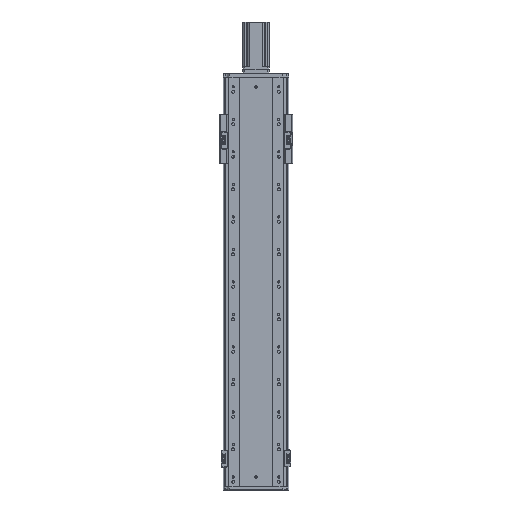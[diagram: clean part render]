
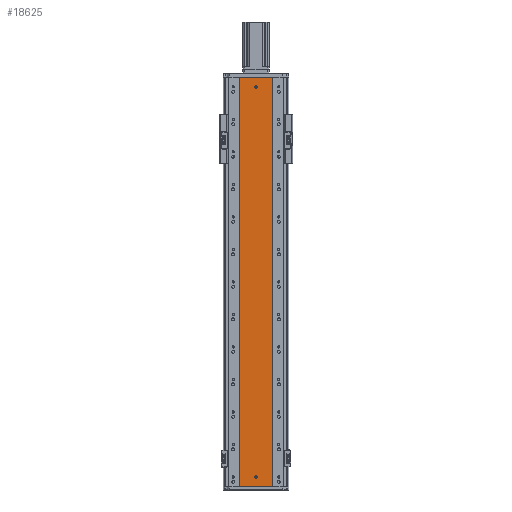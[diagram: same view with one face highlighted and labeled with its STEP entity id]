
A CAD part, front view. The second image highlights one B-rep face of the part: STEP entity #18625.
In plain terms, the highlighted planar face has unit normal (0, -1, 0).
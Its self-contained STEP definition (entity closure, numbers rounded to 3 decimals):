
#8098 = CIRCLE ( 'NONE', #39037, 4. ) ;
#8130 = CIRCLE ( 'NONE', #39039, 4. ) ;
#8908 = CARTESIAN_POINT ( 'NONE',  ( 136.47, 79.476, 26. ) ) ;
#8911 = CARTESIAN_POINT ( 'NONE',  ( 136.47, 79.476, 1226. ) ) ;
#8986 = CARTESIAN_POINT ( 'NONE',  ( 136.47, 79.476, 34. ) ) ;
#8987 = CARTESIAN_POINT ( 'NONE',  ( 136.47, 79.476, 1234. ) ) ;
#10971 = CARTESIAN_POINT ( 'NONE',  ( 0., 79.476, 1260. ) ) ;
#10981 = CARTESIAN_POINT ( 'NONE',  ( 136.47, 79.476, 30. ) ) ;
#10982 = DIRECTION ( 'NONE',  ( 0., -1., 0. ) ) ;
#10999 = CARTESIAN_POINT ( 'NONE',  ( 86.97, 79.476, 420. ) ) ;
#11000 = CARTESIAN_POINT ( 'NONE',  ( 0., 79.476, 0. ) ) ;
#11001 = CARTESIAN_POINT ( 'NONE',  ( 86.97, 79.476, 0. ) ) ;
#11004 = DIRECTION ( 'NONE',  ( 0., 0., -1. ) ) ;
#11006 = DIRECTION ( 'NONE',  ( 0., -1., 0. ) ) ;
#11016 = CARTESIAN_POINT ( 'NONE',  ( 136.47, 79.476, 1230. ) ) ;
#11026 = DIRECTION ( 'NONE',  ( 1., 0., 0. ) ) ;
#11030 = CARTESIAN_POINT ( 'NONE',  ( 86.97, 79.476, 1260. ) ) ;
#11035 = DIRECTION ( 'NONE',  ( 0., 0., -1. ) ) ;
#11036 = CARTESIAN_POINT ( 'NONE',  ( 86.97, 79.476, 840. ) ) ;
#11038 = DIRECTION ( 'NONE',  ( 1., 0., 0. ) ) ;
#11042 = CARTESIAN_POINT ( 'NONE',  ( 185.97, 79.476, 1260. ) ) ;
#11043 = CARTESIAN_POINT ( 'NONE',  ( 185.97, 79.476, 0. ) ) ;
#11060 = CARTESIAN_POINT ( 'NONE',  ( 185.97, 79.476, 840. ) ) ;
#11072 = CARTESIAN_POINT ( 'NONE',  ( 185.97, 79.476, 420. ) ) ;
#18625 = ADVANCED_FACE ( 'NONE', ( #29830, #29817, #29810 ), #22527, .F. ) ;
#19372 = EDGE_CURVE ( 'NONE', #20021, #19962, #8130, .T. ) ;
#19427 = EDGE_CURVE ( 'NONE', #20025, #20001, #8098, .T. ) ;
#19962 = VERTEX_POINT ( 'NONE', #8908 ) ;
#20001 = VERTEX_POINT ( 'NONE', #8911 ) ;
#20021 = VERTEX_POINT ( 'NONE', #8986 ) ;
#20025 = VERTEX_POINT ( 'NONE', #8987 ) ;
#21219 = EDGE_LOOP ( 'NONE', ( #26556, #26518 ) ) ;
#21238 = EDGE_LOOP ( 'NONE', ( #25049, #26531 ) ) ;
#21245 = EDGE_LOOP ( 'NONE', ( #25060, #25545, #26545, #26512 ) ) ;
#22527 = PLANE ( 'NONE',  #39534 ) ;
#22529 = CARTESIAN_POINT ( 'NONE',  ( 0., 79.476, 1260. ) ) ;
#22531 = DIRECTION ( 'NONE',  ( 0., 1., 0. ) ) ;
#22532 = DIRECTION ( 'NONE',  ( 0., 0., 1. ) ) ;
#23702 = AXIS2_PLACEMENT_3D ( 'NONE', #10981, #10982, #11035 ) ;
#23703 = AXIS2_PLACEMENT_3D ( 'NONE', #11016, #11006, #11004 ) ;
#25049 = ORIENTED_EDGE ( 'NONE', *, *, #47098, .F. ) ;
#25060 = ORIENTED_EDGE ( 'NONE', *, *, #47100, .T. ) ;
#25545 = ORIENTED_EDGE ( 'NONE', *, *, #47128, .F. ) ;
#26512 = ORIENTED_EDGE ( 'NONE', *, *, #47113, .T. ) ;
#26518 = ORIENTED_EDGE ( 'NONE', *, *, #19372, .F. ) ;
#26531 = ORIENTED_EDGE ( 'NONE', *, *, #19427, .F. ) ;
#26545 = ORIENTED_EDGE ( 'NONE', *, *, #47097, .F. ) ;
#26556 = ORIENTED_EDGE ( 'NONE', *, *, #47094, .F. ) ;
#29810 = FACE_OUTER_BOUND ( 'NONE', #21245, .T. ) ;
#29817 = FACE_BOUND ( 'NONE', #21219, .T. ) ;
#29830 = FACE_BOUND ( 'NONE', #21238, .T. ) ;
#31689 = DIRECTION ( 'NONE',  ( 0., 0., -1. ) ) ;
#31690 = DIRECTION ( 'NONE',  ( 0., -1., 0. ) ) ;
#31709 = CARTESIAN_POINT ( 'NONE',  ( 136.47, 79.476, 30. ) ) ;
#31834 = CARTESIAN_POINT ( 'NONE',  ( 136.47, 79.476, 1230. ) ) ;
#31853 = DIRECTION ( 'NONE',  ( 0., 0., -1. ) ) ;
#31854 = DIRECTION ( 'NONE',  ( 0., -1., 0. ) ) ;
#32530 = CIRCLE ( 'NONE', #23702, 4. ) ;
#32542 = LINE ( 'NONE', #11000, #32588 ) ;
#32556 = VECTOR ( 'NONE', #11038, 1000. ) ;
#32562 = CIRCLE ( 'NONE', #23703, 4. ) ;
#32566 = LINE ( 'NONE', #10971, #32556 ) ;
#32588 = VECTOR ( 'NONE', #11026, 1000. ) ;
#35460 = VERTEX_POINT ( 'NONE', #43759 ) ;
#35479 = VERTEX_POINT ( 'NONE', #43815 ) ;
#35499 = VERTEX_POINT ( 'NONE', #43824 ) ;
#35532 = VERTEX_POINT ( 'NONE', #43852 ) ;
#39037 = AXIS2_PLACEMENT_3D ( 'NONE', #31834, #31854, #31853 ) ;
#39039 = AXIS2_PLACEMENT_3D ( 'NONE', #31709, #31690, #31689 ) ;
#39534 = AXIS2_PLACEMENT_3D ( 'NONE', #22529, #22531, #22532 ) ;
#43759 = CARTESIAN_POINT ( 'NONE',  ( 185.97, 79.476, 1260. ) ) ;
#43815 = CARTESIAN_POINT ( 'NONE',  ( 86.97, 79.476, 0. ) ) ;
#43824 = CARTESIAN_POINT ( 'NONE',  ( 185.97, 79.476, 0. ) ) ;
#43852 = CARTESIAN_POINT ( 'NONE',  ( 86.97, 79.476, 1260. ) ) ;
#46117 = B_SPLINE_CURVE_WITH_KNOTS ( 'NONE', 3,
 ( #11042, #11060, #11072, #11043 ),
 .UNSPECIFIED., .F., .F.,
 ( 4, 4 ),
 ( 0., 1. ),
 .UNSPECIFIED. ) ;
#46155 = B_SPLINE_CURVE_WITH_KNOTS ( 'NONE', 3,
 ( #11030, #11036, #10999, #11001 ),
 .UNSPECIFIED., .F., .F.,
 ( 4, 4 ),
 ( 0., 1. ),
 .UNSPECIFIED. ) ;
#47094 = EDGE_CURVE ( 'NONE', #19962, #20021, #32530, .T. ) ;
#47097 = EDGE_CURVE ( 'NONE', #35532, #35460, #32566, .T. ) ;
#47098 = EDGE_CURVE ( 'NONE', #20001, #20025, #32562, .T. ) ;
#47100 = EDGE_CURVE ( 'NONE', #35479, #35499, #32542, .T. ) ;
#47113 = EDGE_CURVE ( 'NONE', #35532, #35479, #46155, .T. ) ;
#47128 = EDGE_CURVE ( 'NONE', #35460, #35499, #46117, .T. ) ;
